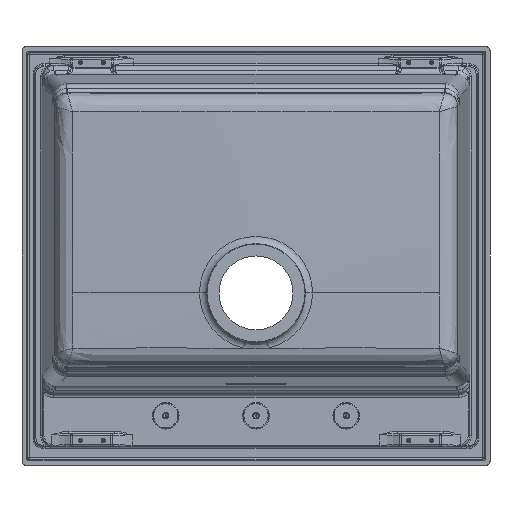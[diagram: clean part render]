
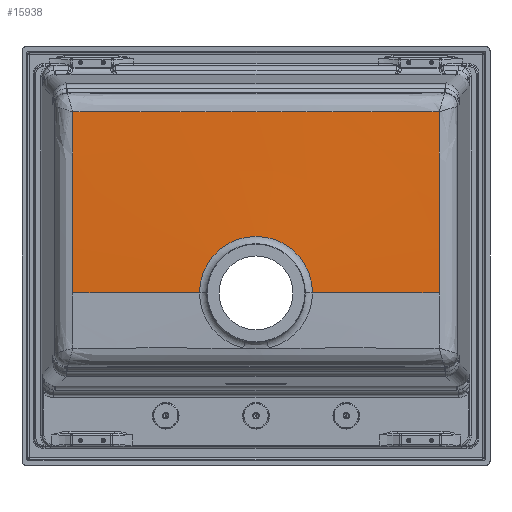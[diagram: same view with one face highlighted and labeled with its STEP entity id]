
A CAD part, front view. The second image highlights one B-rep face of the part: STEP entity #15938.
In plain terms, the highlighted conical face has half-angle 88.5 degrees and reference radius 50.209 mm.
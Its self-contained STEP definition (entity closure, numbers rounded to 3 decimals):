
#393 = CARTESIAN_POINT ( 'NONE',  ( -222.98, -192.155, 130.687 ) ) ;
#773 = AXIS2_PLACEMENT_3D ( 'NONE', #11326, #20618, #29890 ) ;
#1017 = CARTESIAN_POINT ( 'NONE',  ( 222.971, -193.734, -44.849 ) ) ;
#1158 = B_SPLINE_CURVE_WITH_KNOTS ( 'NONE', 3,
 ( #7395, #3898, #20011, #10727, #29286, #26538, #26690, #17427, #1017, #5860 ),
 .UNSPECIFIED., .F., .F.,
 ( 4, 2, 2, 2, 4 ),
 ( 0., 0.306, 0.652, 0.998, 1. ),
 .UNSPECIFIED. ) ;
#1782 = EDGE_CURVE ( 'NONE', #9825, #2339, #20493, .T. ) ;
#2244 = CIRCLE ( 'NONE', #773, 68.837 ) ;
#2339 = VERTEX_POINT ( 'NONE', #25637 ) ;
#2677 = VERTEX_POINT ( 'NONE', #13217 ) ;
#3369 = CARTESIAN_POINT ( 'NONE',  ( 77.638, -193.467, 175.628 ) ) ;
#3514 = CARTESIAN_POINT ( 'NONE',  ( -151.994, -192.605, 175.631 ) ) ;
#3898 = CARTESIAN_POINT ( 'NONE',  ( 222.991, -191.772, 153.179 ) ) ;
#4029 = ORIENTED_EDGE ( 'NONE', *, *, #19531, .F. ) ;
#4080 = EDGE_LOOP ( 'NONE', ( #4842, #13839, #27971, #4029, #10861, #21002 ) ) ;
#4784 = CARTESIAN_POINT ( 'NONE',  ( -222.971, -193.734, -44.698 ) ) ;
#4842 = ORIENTED_EDGE ( 'NONE', *, *, #12439, .T. ) ;
#5282 = CARTESIAN_POINT ( 'NONE',  ( 0., -198.258, -45. ) ) ;
#5343 = CARTESIAN_POINT ( 'NONE',  ( 38.819, -193.727, 175.63 ) ) ;
#5427 = DIRECTION ( 'NONE',  ( 0., 1., 0. ) ) ;
#5490 = CARTESIAN_POINT ( 'NONE',  ( -77.66, -193.467, 175.628 ) ) ;
#5860 = CARTESIAN_POINT ( 'NONE',  ( 222.971, -193.734, -45. ) ) ;
#6685 = CARTESIAN_POINT ( 'NONE',  ( -68.837, -197.77, -45. ) ) ;
#7204 = CARTESIAN_POINT ( 'NONE',  ( -222.967, -193.179, 57.304 ) ) ;
#7395 = CARTESIAN_POINT ( 'NONE',  ( 223.005, -191.357, 175.666 ) ) ;
#7763 = CARTESIAN_POINT ( 'NONE',  ( -223.005, -191.357, 175.666 ) ) ;
#7808 = CONICAL_SURFACE ( 'NONE', #24311, 50.209, 1.545 ) ;
#7912 = CARTESIAN_POINT ( 'NONE',  ( -19.429, -193.795, 175.631 ) ) ;
#7922 = CARTESIAN_POINT ( 'NONE',  ( 68.837, -197.77, -45. ) ) ;
#9337 = CARTESIAN_POINT ( 'NONE',  ( -222.971, -193.734, -45. ) ) ;
#9638 = CARTESIAN_POINT ( 'NONE',  ( -222.991, -191.772, 153.179 ) ) ;
#9825 = VERTEX_POINT ( 'NONE', #6685 ) ;
#10197 = CARTESIAN_POINT ( 'NONE',  ( -97.062, -193.277, 175.627 ) ) ;
#10727 = CARTESIAN_POINT ( 'NONE',  ( 222.968, -192.866, 82.75 ) ) ;
#10861 = ORIENTED_EDGE ( 'NONE', *, *, #22662, .F. ) ;
#11326 = CARTESIAN_POINT ( 'NONE',  ( 0., -197.77, -45. ) ) ;
#11333 =( BOUNDED_CURVE ( )  B_SPLINE_CURVE ( 3, ( #9337, #18622, #4784, #21052, #28040, #7204, #21202, #393, #9638, #18924 ),
 .UNSPECIFIED., .F., .F. ) 
 B_SPLINE_CURVE_WITH_KNOTS ( ( 4, 2, 2, 2, 4 ),
 ( 0., 0.002, 0.348, 0.694, 1. ),
 .UNSPECIFIED. ) 
 CURVE ( )  GEOMETRIC_REPRESENTATION_ITEM ( )  RATIONAL_B_SPLINE_CURVE ( ( 1., 1., 1., 1., 1., 1., 1., 1., 1., 1. ) ) 
 REPRESENTATION_ITEM ( '' )  );
#11540 = VERTEX_POINT ( 'NONE', #17584 ) ;
#12439 = EDGE_CURVE ( 'NONE', #9825, #26844, #2244, .T. ) ;
#12628 = CARTESIAN_POINT ( 'NONE',  ( 187.5, -192.019, 175.643 ) ) ;
#12777 = CARTESIAN_POINT ( 'NONE',  ( -187.507, -192.019, 175.643 ) ) ;
#12865 = DIRECTION ( 'NONE',  ( -1., 0., 0. ) ) ;
#13217 = CARTESIAN_POINT ( 'NONE',  ( -223.005, -191.357, 175.666 ) ) ;
#13263 = VERTEX_POINT ( 'NONE', #20739 ) ;
#13543 = VECTOR ( 'NONE', #23974, 1000. ) ;
#13839 = ORIENTED_EDGE ( 'NONE', *, *, #27495, .T. ) ;
#14556 = LINE ( 'NONE', #28992, #13543 ) ;
#14860 = FACE_OUTER_BOUND ( 'NONE', #4080, .T. ) ;
#15938 = ADVANCED_FACE ( 'NONE', ( #14860 ), #7808, .T. ) ;
#16219 = VECTOR ( 'NONE', #25202, 1000. ) ;
#17427 = CARTESIAN_POINT ( 'NONE',  ( 222.971, -193.734, -44.698 ) ) ;
#17584 = CARTESIAN_POINT ( 'NONE',  ( 222.971, -193.734, -45. ) ) ;
#18622 = CARTESIAN_POINT ( 'NONE',  ( -222.971, -193.734, -44.849 ) ) ;
#18924 = CARTESIAN_POINT ( 'NONE',  ( -223.005, -191.357, 175.666 ) ) ;
#19479 = CARTESIAN_POINT ( 'NONE',  ( 19.404, -193.795, 175.631 ) ) ;
#19531 = EDGE_CURVE ( 'NONE', #2677, #13263, #26700, .T. ) ;
#19786 = CARTESIAN_POINT ( 'NONE',  ( -38.843, -193.727, 175.63 ) ) ;
#20011 = CARTESIAN_POINT ( 'NONE',  ( 222.98, -192.155, 130.687 ) ) ;
#20345 = CARTESIAN_POINT ( 'NONE',  ( -50.209, -198.258, -45. ) ) ;
#20493 = LINE ( 'NONE', #20345, #16219 ) ;
#20618 = DIRECTION ( 'NONE',  ( 0., 1., 0. ) ) ;
#20739 = CARTESIAN_POINT ( 'NONE',  ( 223.005, -191.357, 175.666 ) ) ;
#21002 = ORIENTED_EDGE ( 'NONE', *, *, #1782, .F. ) ;
#21052 = CARTESIAN_POINT ( 'NONE',  ( -222.971, -193.732, -19.08 ) ) ;
#21202 = CARTESIAN_POINT ( 'NONE',  ( -222.968, -192.866, 82.75 ) ) ;
#22055 = CARTESIAN_POINT ( 'NONE',  ( 151.981, -192.605, 175.631 ) ) ;
#22662 = EDGE_CURVE ( 'NONE', #2339, #2677, #11333, .T. ) ;
#23974 = DIRECTION ( 'NONE',  ( 1., 0.026, 0. ) ) ;
#24311 = AXIS2_PLACEMENT_3D ( 'NONE', #5282, #5427, #12865 ) ;
#24343 = EDGE_CURVE ( 'NONE', #13263, #11540, #1158, .T. ) ;
#25202 = DIRECTION ( 'NONE',  ( -1., 0.026, 0. ) ) ;
#25637 = CARTESIAN_POINT ( 'NONE',  ( -222.971, -193.734, -45. ) ) ;
#26169 = CARTESIAN_POINT ( 'NONE',  ( 223.005, -191.357, 175.666 ) ) ;
#26466 = CARTESIAN_POINT ( 'NONE',  ( 97.042, -193.277, 175.627 ) ) ;
#26538 = CARTESIAN_POINT ( 'NONE',  ( 222.969, -193.614, 6.388 ) ) ;
#26690 = CARTESIAN_POINT ( 'NONE',  ( 222.971, -193.732, -19.08 ) ) ;
#26700 = B_SPLINE_CURVE_WITH_KNOTS ( 'NONE', 3,
 ( #7763, #12777, #3514, #10197, #5490, #19786, #7912, #19479, #5343, #3369, #26466, #22055, #12628, #26169 ),
 .UNSPECIFIED., .F., .F.,
 ( 4, 2, 2, 2, 2, 2, 4 ),
 ( 0., 0.239, 0.37, 0.5, 0.63, 0.761, 1. ),
 .UNSPECIFIED. ) ;
#26844 = VERTEX_POINT ( 'NONE', #7922 ) ;
#27495 = EDGE_CURVE ( 'NONE', #26844, #11540, #14556, .T. ) ;
#27971 = ORIENTED_EDGE ( 'NONE', *, *, #24343, .F. ) ;
#28040 = CARTESIAN_POINT ( 'NONE',  ( -222.969, -193.614, 6.388 ) ) ;
#28992 = CARTESIAN_POINT ( 'NONE',  ( 50.209, -198.258, -45. ) ) ;
#29286 = CARTESIAN_POINT ( 'NONE',  ( 222.967, -193.179, 57.304 ) ) ;
#29890 = DIRECTION ( 'NONE',  ( -1., 0., 0. ) ) ;
